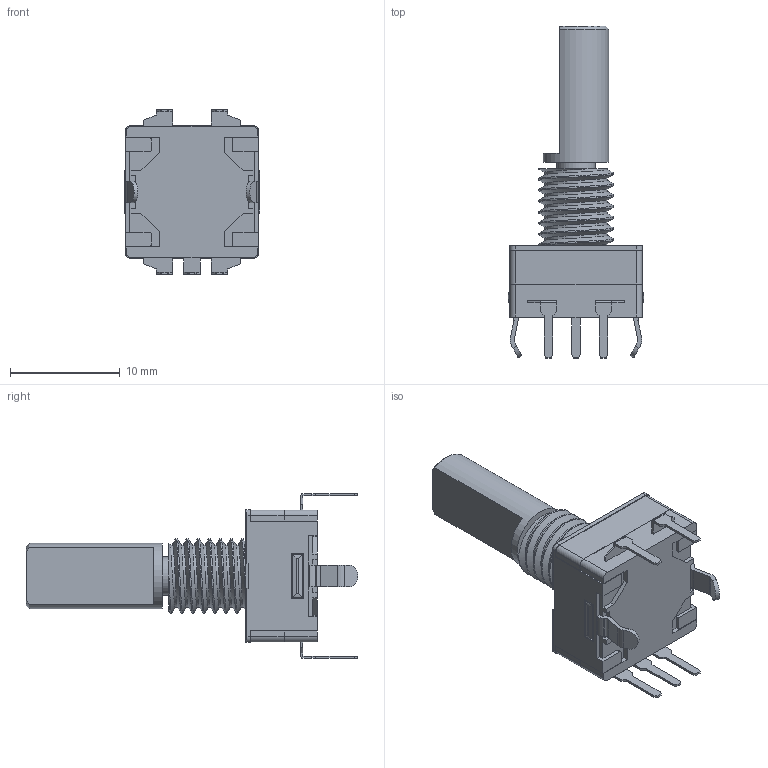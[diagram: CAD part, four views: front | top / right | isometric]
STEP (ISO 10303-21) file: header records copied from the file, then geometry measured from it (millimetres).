
FILE_DESCRIPTION(/* description */ ('STEP AP214'),/* implementation_level */ '2;1');
FILE_NAME(/* name */ 'EC11_20mm.step',/* time_stamp */ '2026-01-13T21:17:28+13:00',/* author */ (''),/* organization */ (''),/* preprocessor_version */ 'ST-DEVELOPER v20.1',/* originating_system */ 'Autodesk Translation Framework v14.21.0.0',/* authorisation */ '');
FILE_SCHEMA (('AUTOMOTIVE_DESIGN { 1 0 10303 214 3 1 1 }'));
Length unit declared in the file: millimetre
Products named in the file (1): Ðý×ª±àÂëÆ÷
Bounding box: 12.3 x 30.2 x 15 mm (x, y, z)
Volume: 1437.1 mm3; surface area: 1592.8 mm2
Topology: 6 solids, 6 shells, 310 faces, 864 edges, 563 vertices
Faces by surface type: plane 230, cylinder 69, bspline 10, cone 1
Full cylindrical faces by diameter (mm): 3.5 x1, 5.717 x7, 6 x1, 6.8 x6
Entity records: 11349 total; most frequent: CARTESIAN_POINT 3167, ORIENTED_EDGE 1728, DIRECTION 1514, EDGE_CURVE 864, LINE 716, VECTOR 716, VERTEX_POINT 563, AXIS2_PLACEMENT_3D 399
